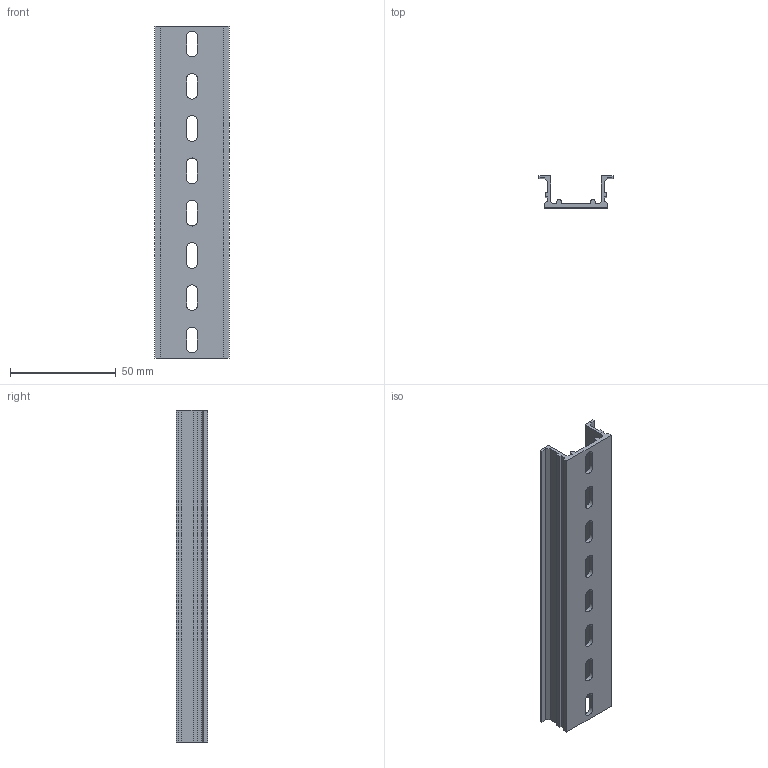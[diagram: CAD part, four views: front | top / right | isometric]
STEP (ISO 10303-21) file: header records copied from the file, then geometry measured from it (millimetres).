
FILE_DESCRIPTION(/* description */ (''),/* implementation_level */ '2;1');
FILE_NAME(/* name */ '',/* time_stamp */ '2024-12-05T13:23:25+09:00',/* author */ ('usercadg104'),/* organization */ (''),/* preprocessor_version */ 'ST-DEVELOPER v19.2',/* originating_system */ 'Autodesk Inventor 2023',/* authorisation */ '');
FILE_SCHEMA (('CONFIG_CONTROL_DESIGN'));
Length unit declared in the file: millimetre
Products named in the file (1): TKB KD-3(林)
Bounding box: 35 x 15 x 157 mm (x, y, z)
Volume: 18354.9 mm3; surface area: 21401.1 mm2
Topology: 1 solids, 1 shells, 72 faces, 210 edges, 140 vertices
Faces by surface type: plane 52, cylinder 20
Entity records: 2449 total; most frequent: CARTESIAN_POINT 423, ORIENTED_EDGE 420, DIRECTION 396, EDGE_CURVE 210, LINE 170, VECTOR 170, VERTEX_POINT 140, AXIS2_PLACEMENT_3D 113
